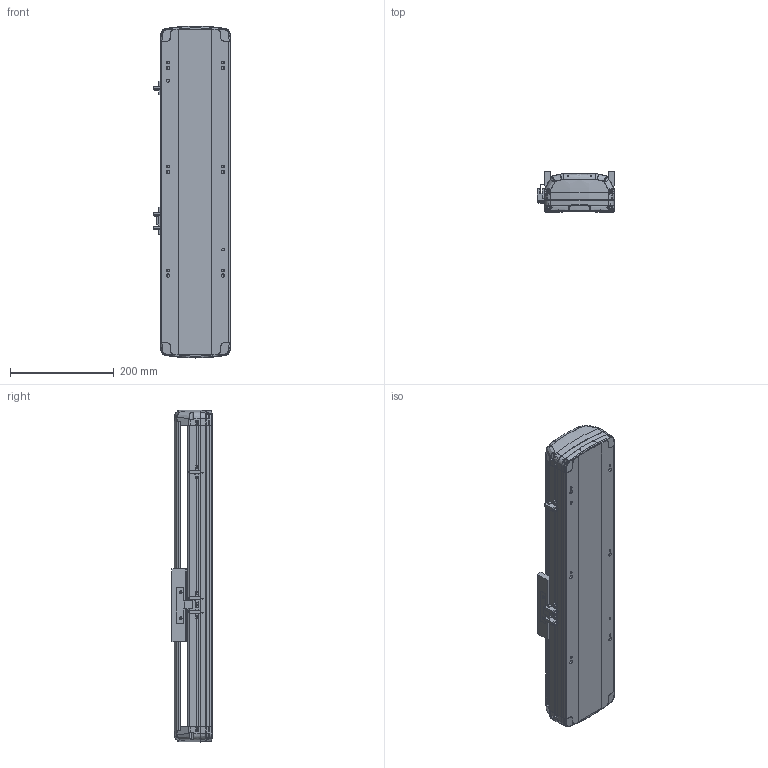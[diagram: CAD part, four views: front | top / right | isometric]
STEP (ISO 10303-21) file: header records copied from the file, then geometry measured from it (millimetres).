
FILE_DESCRIPTION (( 'STEP AP214' ), '1' );
FILE_NAME ('RTH14-XX-250-B-M20-C4.STEP', '2025-10-25T02:18:42', ( 'Microsoft' ), ( 'Microsoft' ), 'SwSTEP 2.0', 'SolidWorks 2018', '' );
FILE_SCHEMA (( 'AUTOMOTIVE_DESIGN' ));
Length unit declared in the file: millimetre
Products named in the file (7): RTH14-XX-250-B-M20-C4; N_RTH14-B-007奻裔^RTH14-XX-XX-B-M20-C4; N_RTH14-B-011P菁釱^RTH14-XX-XX-B-M20-C4; N_RTH14-GY-001P^RTH14-XX-XX-B-M20-C4; N_RTH14-R-004-SFSR16賑釱^RTH14-XX-XX-B-M20-C4; N_RTH13-L-012感应片（外置）^RTH14-XX-XX-B-M20-C4; N_OMRON EE-SX672 传感器^RTH14-XX-XX-B-M20-C4
Assembly tree (9 placements, depth 2):
  RTH14-XX-250-B-M20-C4
    N_RTH14-B-011P菁釱^RTH14-XX-XX-B-M20-C4
    N_RTH14-B-007奻裔^RTH14-XX-XX-B-M20-C4
    N_RTH13-L-012感应片（外置）^RTH14-XX-XX-B-M20-C4
    N_OMRON EE-SX672 传感器^RTH14-XX-XX-B-M20-C4  x3
    N_RTH14-R-004-SFSR16賑釱^RTH14-XX-XX-B-M20-C4
    N_RTH14-GY-001P^RTH14-XX-XX-B-M20-C4  x2
Bounding box: 148.5 x 78.03 x 638.99 mm (x, y, z)
Volume: 2780982.1 mm3; surface area: 653793.5 mm2
Topology: 9 solids, 9 shells, 1882 faces, 5296 edges, 3446 vertices
Faces by surface type: plane 971, bspline 450, cylinder 397, cone 56, torus 8
Entity records: 45288 total; most frequent: CARTESIAN_POINT 20538, ORIENTED_EDGE 5608, DIRECTION 4047, EDGE_CURVE 2804, VERTEX_POINT 1832, LINE 1595, VECTOR 1595, AXIS2_PLACEMENT_3D 1226
